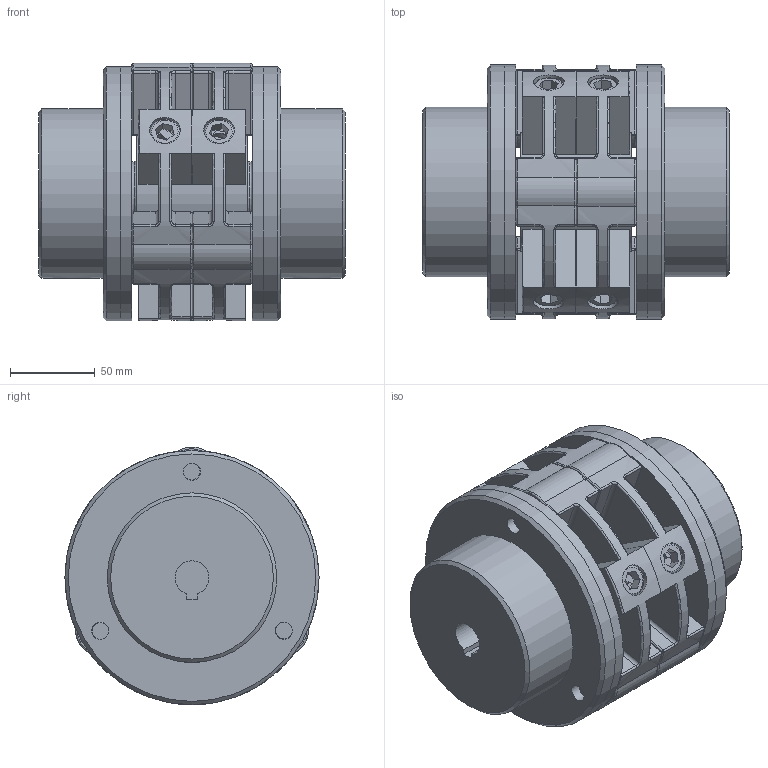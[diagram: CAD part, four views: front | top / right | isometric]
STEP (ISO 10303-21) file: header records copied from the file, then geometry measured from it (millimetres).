
FILE_DESCRIPTION(/* description */ (''),/* implementation_level */ '2;1');
FILE_NAME(/* name */ 'GXZ16-L81-20-PF-20-PF',/* time_stamp */ '2024-01-05T15:36:20+01:00',/* author */ ('M. Horlacher'),/* organization */ (''),/* preprocessor_version */ 'ST-DEVELOPER v20',/* originating_system */ 'Autodesk Inventor 2024',/* authorisation */ '');
FILE_SCHEMA (('AUTOMOTIVE_DESIGN { 1 0 10303 214 3 1 1 }'));
Length unit declared in the file: millimetre
Products named in the file (9): RP STEP; VE Rohr Dummy; GX16-Nabe; GX16 Befestigungssatz; 080305-1411s ; 100305-1526s ; ISO 4762 - M12 x 35 - 8.8 - VZ A1A; GX16-Nabe_1; 240605-0912s
Assembly tree (15 placements, depth 3):
  RP STEP
    VE Rohr Dummy
    GX16 Befestigungssatz  x2
      080305-1411s 
      100305-1526s 
      ISO 4762 - M12 x 35 - 8.8 - VZ A1A
    GX16-Nabe
    GX16-Nabe_1
    240605-0912s  x2
Bounding box: 181 x 150 x 151.95 mm (x, y, z)
Volume: 1945681.7 mm3; surface area: 415821.8 mm2
Topology: 21 solids, 21 shells, 724 faces, 1782 edges, 1068 vertices
Faces by surface type: plane 250, cylinder 208, torus 130, sphere 58, bspline 48, cone 30
Full cylindrical faces by diameter (mm): 8.376 x2, 10.106 x12, 12 x24, 12.5 x6, 18 x24, 42 x2, 67 x3, 70 x3, 100 x2, 145 x4, 150 x4
Entity records: 10914 total; most frequent: CARTESIAN_POINT 3301, DIRECTION 1570, ORIENTED_EDGE 1472, EDGE_CURVE 736, AXIS2_PLACEMENT_3D 659, VERTEX_POINT 452, EDGE_LOOP 370, CIRCLE 345
